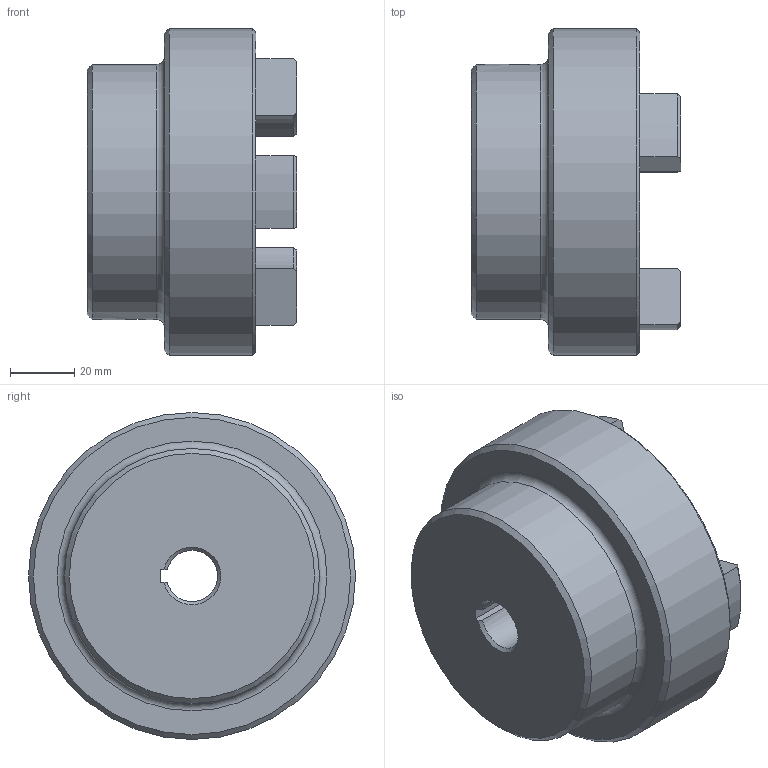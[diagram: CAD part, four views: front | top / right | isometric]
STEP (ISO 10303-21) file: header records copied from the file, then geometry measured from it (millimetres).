
FILE_DESCRIPTION (( 'STEP AP203' ), '1' );
FILE_NAME ('RC4.step', '2024-07-24T17:31:25', ( 'Adlan' ), ( '' ), 'SwSTEP 2.0', 'SolidWorks 2013', '' );
FILE_SCHEMA (( 'CONFIG_CONTROL_DESIGN' ));
Length unit declared in the file: inch
Products named in the file (1): RC4
Bounding box: 65.02 x 101.6 x 101.6 mm (x, y, z)
Volume: 271821 mm3; surface area: 40795.8 mm2
Topology: 1 solids, 1 shells, 70 faces, 183 edges, 115 vertices
Faces by surface type: cylinder 26, plane 19, torus 13, cone 12
Full cylindrical faces by diameter (mm): 5.105 x2, 79.248 x1, 101.6 x1
Entity records: 2373 total; most frequent: CARTESIAN_POINT 609, DIRECTION 370, ORIENTED_EDGE 332, EDGE_CURVE 166, AXIS2_PLACEMENT_3D 146, VERTEX_POINT 109, EDGE_LOOP 87, LINE 78
